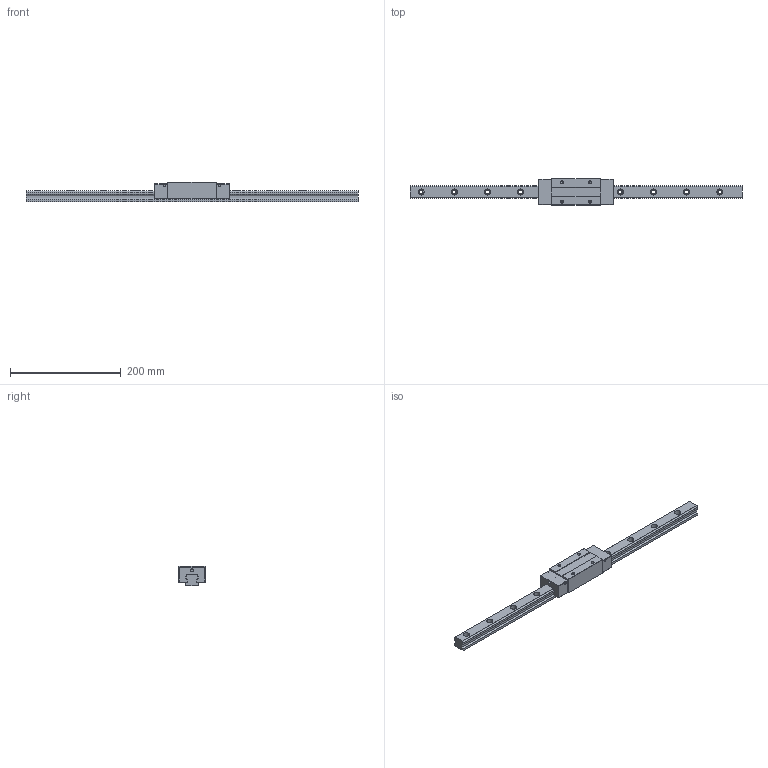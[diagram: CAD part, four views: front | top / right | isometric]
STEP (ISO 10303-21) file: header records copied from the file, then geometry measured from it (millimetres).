
FILE_DESCRIPTION (( 'STEP AP203' ), '1' );
FILE_NAME ('TRC25VE-DZ.STEP', '2024-06-13T01:46:05', ( '' ), ( '' ), 'SwSTEP 2.0', 'SolidWorks 2022', '' );
FILE_SCHEMA (( 'CONFIG_CONTROL_DESIGN' ));
Length unit declared in the file: millimetre
Products named in the file (1): TRC25VE-DZ
Bounding box: 600 x 48 x 36 mm (x, y, z)
Volume: 378827.4 mm3; surface area: 87147.2 mm2
Topology: 2 solids, 2 shells, 200 faces, 520 edges, 336 vertices
Faces by surface type: cylinder 96, plane 88, cone 16
Entity records: 6223 total; most frequent: DIRECTION 1114, CARTESIAN_POINT 1049, ORIENTED_EDGE 1024, EDGE_CURVE 512, AXIS2_PLACEMENT_3D 401, VERTEX_POINT 336, VECTOR 312, LINE 312
